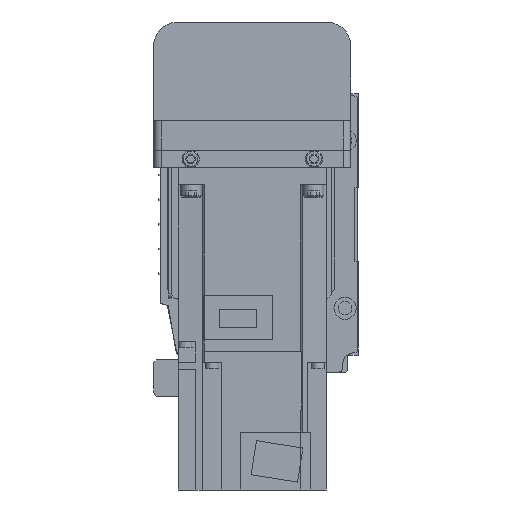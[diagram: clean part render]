
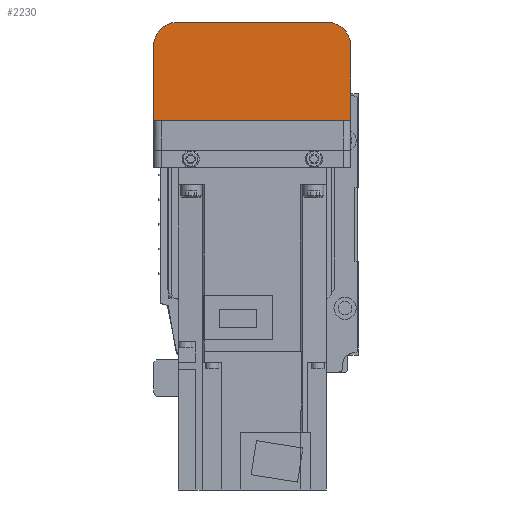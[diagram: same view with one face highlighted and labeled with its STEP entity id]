
A CAD part, left-side view. The second image highlights one B-rep face of the part: STEP entity #2230.
In plain terms, the highlighted planar face has unit normal (-1, 0, 0).
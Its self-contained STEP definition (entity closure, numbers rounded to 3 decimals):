
#2230 = ADVANCED_FACE( '', ( #4669 ), #4670, .F. );
#4669 = FACE_OUTER_BOUND( '', #7181, .T. );
#4670 = PLANE( '', #7182 );
#7181 = EDGE_LOOP( '', ( #13302, #13303, #13304, #13305, #13306, #13307 ) );
#7182 = AXIS2_PLACEMENT_3D( '', #13308, #13309, #13310 );
#13302 = ORIENTED_EDGE( '', *, *, #16491, .F. );
#13303 = ORIENTED_EDGE( '', *, *, #16297, .F. );
#13304 = ORIENTED_EDGE( '', *, *, #15244, .F. );
#13305 = ORIENTED_EDGE( '', *, *, #15858, .F. );
#13306 = ORIENTED_EDGE( '', *, *, #16492, .F. );
#13307 = ORIENTED_EDGE( '', *, *, #16469, .F. );
#13308 = CARTESIAN_POINT( '', ( -192., 37., 7. ) );
#13309 = DIRECTION( '', ( 1., 0., 0. ) );
#13310 = DIRECTION( '', ( 0., 0., -1. ) );
#15244 = EDGE_CURVE( '', #18570, #18572, #18573, .T. );
#15858 = EDGE_CURVE( '', #19465, #18570, #19467, .T. );
#16297 = EDGE_CURVE( '', #18572, #19503, #20031, .T. );
#16469 = EDGE_CURVE( '', #17850, #20220, #20221, .T. );
#16491 = EDGE_CURVE( '', #19503, #17850, #20243, .T. );
#16492 = EDGE_CURVE( '', #20220, #19465, #20244, .T. );
#17850 = VERTEX_POINT( '', #22027 );
#18570 = VERTEX_POINT( '', #22987 );
#18572 = VERTEX_POINT( '', #22990 );
#18573 = CIRCLE( '', #22991, 10. );
#19465 = VERTEX_POINT( '', #24193 );
#19467 = LINE( '', #24196, #24197 );
#19503 = VERTEX_POINT( '', #24250 );
#20031 = LINE( '', #24947, #24948 );
#20220 = VERTEX_POINT( '', #25189 );
#20221 = LINE( '', #25190, #25191 );
#20243 = LINE( '', #25217, #25218 );
#20244 = CIRCLE( '', #25219, 10. );
#22027 = CARTESIAN_POINT( '', ( -192., -40., -12.1 ) );
#22987 = CARTESIAN_POINT( '', ( -192., 30., -52. ) );
#22990 = CARTESIAN_POINT( '', ( -192., 40., -42. ) );
#22991 = AXIS2_PLACEMENT_3D( '', #26841, #26842, #26843 );
#24193 = CARTESIAN_POINT( '', ( -192., -30., -52. ) );
#24196 = CARTESIAN_POINT( '', ( -192., -30., -52. ) );
#24197 = VECTOR( '', #27584, 1000. );
#24250 = CARTESIAN_POINT( '', ( -192., 40., -12.1 ) );
#24947 = CARTESIAN_POINT( '', ( -192., 40., -42. ) );
#24948 = VECTOR( '', #28047, 1000. );
#25189 = CARTESIAN_POINT( '', ( -192., -40., -42. ) );
#25190 = CARTESIAN_POINT( '', ( -192., -40., -12.1 ) );
#25191 = VECTOR( '', #28184, 1000. );
#25217 = CARTESIAN_POINT( '', ( -192., 50., -12.1 ) );
#25218 = VECTOR( '', #28195, 1000. );
#25219 = AXIS2_PLACEMENT_3D( '', #28196, #28197, #28198 );
#26841 = CARTESIAN_POINT( '', ( -192., 30., -42. ) );
#26842 = DIRECTION( '', ( 1., 0., 0. ) );
#26843 = DIRECTION( '', ( 0., 0., -1. ) );
#27584 = DIRECTION( '', ( 0., 1., 0. ) );
#28047 = DIRECTION( '', ( 0., 0., 1. ) );
#28184 = DIRECTION( '', ( 0., 0., -1. ) );
#28195 = DIRECTION( '', ( 0., -1., 0. ) );
#28196 = CARTESIAN_POINT( '', ( -192., -30., -42. ) );
#28197 = DIRECTION( '', ( 1., 0., 0. ) );
#28198 = DIRECTION( '', ( 0., 0., -1. ) );
